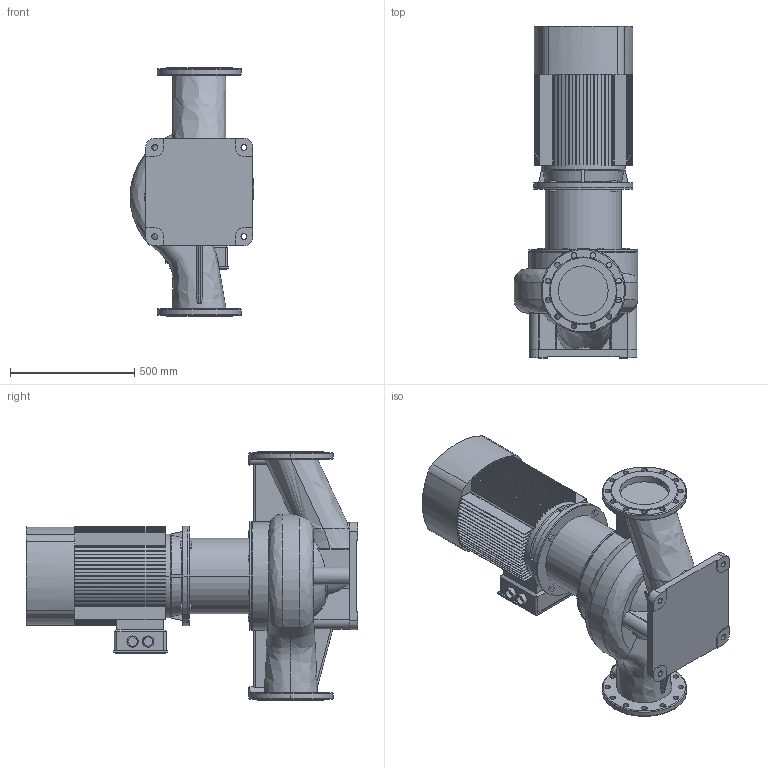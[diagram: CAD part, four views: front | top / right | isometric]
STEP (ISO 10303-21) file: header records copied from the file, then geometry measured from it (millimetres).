
FILE_DESCRIPTION (( 'STEP AP203' ), '1' );
FILE_NAME ('TD200-20_4.STEP', '2022-05-02T17:39:37', ( '' ), ( '' ), 'SwSTEP 2.0', 'SolidWorks 2019', '' );
FILE_SCHEMA (( 'CONFIG_CONTROL_DESIGN' ));
Length unit declared in the file: millimetre
Products named in the file (4): TD200-20_4; ED_B5_YE2-200L-4 (30); Fon_200_TD200-20_4; Pr_ch 200_TD200-20_4
Assembly tree (3 placements, depth 2):
  TD200-20_4
    Pr_ch 200_TD200-20_4
    Fon_200_TD200-20_4
    ED_B5_YE2-200L-4 (30)
Bounding box: 498.53 x 1337 x 1000 mm (x, y, z)
Volume: 160439907.4 mm3; surface area: 5710777.7 mm2
Topology: 5 solids, 7 shells, 756 faces, 2086 edges, 1383 vertices
Faces by surface type: plane 499, cylinder 186, torus 32, bspline 22, cone 17
Entity records: 33411 total; most frequent: CARTESIAN_POINT 13256, ORIENTED_EDGE 4172, DIRECTION 4121, EDGE_CURVE 2086, AXIS2_PLACEMENT_3D 1443, VERTEX_POINT 1383, VECTOR 1235, LINE 1235
